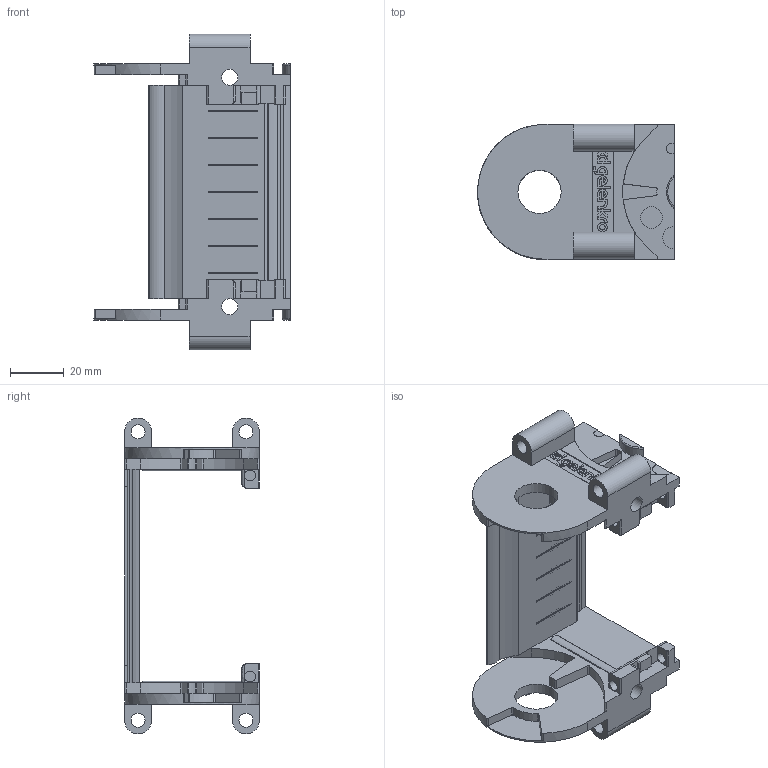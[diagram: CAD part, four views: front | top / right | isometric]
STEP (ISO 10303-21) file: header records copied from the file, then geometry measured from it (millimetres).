
FILE_DESCRIPTION((''),'2;1');
FILE_NAME('C:\Uebbing\PARAMETERKETTEN\KOLIBRI\Kol_50_095_5\Kol_50_095_5_SFA_Bohrung.stp','2015-06-24T14:02:59',('Uebbing'),(''),'Autodesk Inventor 10','Autodesk Inventor 10','');
FILE_SCHEMA(('AUTOMOTIVE_DESIGN { 1 0 10303 214 1 1 1 1 }'));
Length unit declared in the file: millimetre
Products named in the file (1): Kol_50_095_5_SFA_Bohrung
Bounding box: 73 x 50 x 117 mm (x, y, z)
Volume: 46703.9 mm3; surface area: 33634.5 mm2
Topology: 1 solids, 2 shells, 401 faces, 1144 edges, 755 vertices
Faces by surface type: plane 196, bspline 113, cylinder 91, torus 1
Full cylindrical faces by diameter (mm): 2.011 x1, 3.531 x1, 4 x2, 5.2 x4, 6 x1, 8 x1, 16 x1
Entity records: 13701 total; most frequent: CARTESIAN_POINT 3380, ORIENTED_EDGE 2244, DIRECTION 1960, EDGE_CURVE 1122, VECTOR 838, LINE 838, VERTEX_POINT 748, AXIS2_PLACEMENT_3D 561
